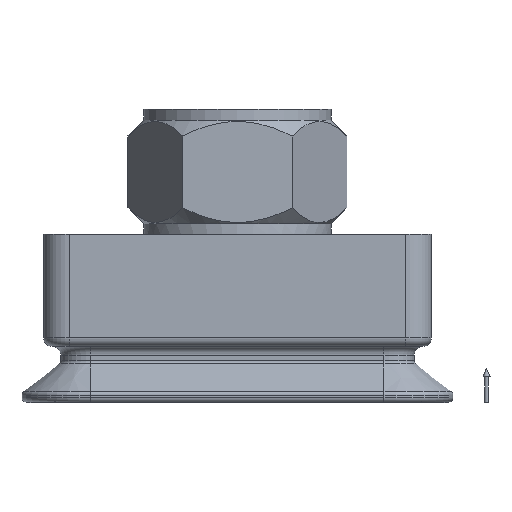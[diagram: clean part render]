
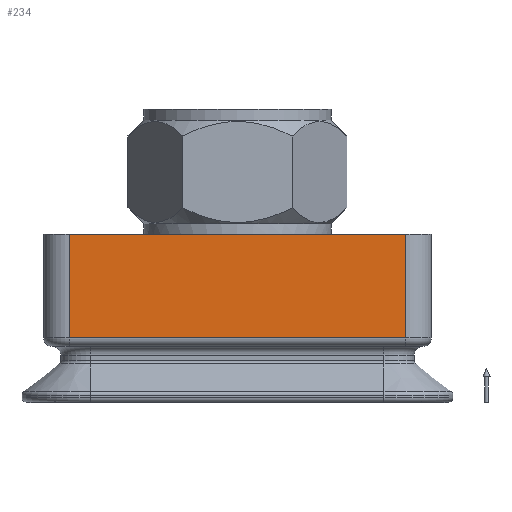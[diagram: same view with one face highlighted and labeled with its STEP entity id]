
A CAD part, front view. The second image highlights one B-rep face of the part: STEP entity #234.
In plain terms, the highlighted planar face has unit normal (0, -1, 0).
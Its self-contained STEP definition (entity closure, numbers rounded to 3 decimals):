
#234=ADVANCED_FACE('',(#525),#526,.T.);
#525=FACE_OUTER_BOUND('',#871,.T.);
#526=PLANE('',#872);
#871=EDGE_LOOP('',(#1473,#1474,#1475,#1476,#1477,#1478));
#872=AXIS2_PLACEMENT_3D('',#1479,#1480,#1481);
#1473=ORIENTED_EDGE('',*,*,#2130,.T.);
#1474=ORIENTED_EDGE('',*,*,#2080,.T.);
#1475=ORIENTED_EDGE('',*,*,#2128,.T.);
#1476=ORIENTED_EDGE('',*,*,#2154,.F.);
#1477=ORIENTED_EDGE('',*,*,#2174,.T.);
#1478=ORIENTED_EDGE('',*,*,#2171,.T.);
#1479=CARTESIAN_POINT('',(0.0,-7.5,7.5));
#1480=DIRECTION('',(0.0,-1.0,0.0));
#1481=DIRECTION('',(0.0,0.0,-1.0));
#2080=EDGE_CURVE('',#2450,#2448,#2506,.T.);
#2128=EDGE_CURVE('',#2448,#2562,#2564,.T.);
#2130=EDGE_CURVE('',#2566,#2450,#2567,.T.);
#2154=EDGE_CURVE('',#2604,#2562,#2606,.T.);
#2171=EDGE_CURVE('',#2628,#2566,#2629,.T.);
#2174=EDGE_CURVE('',#2604,#2628,#2632,.T.);
#2448=VERTEX_POINT('',#2945);
#2450=VERTEX_POINT('',#2947);
#2506=LINE('',#3069,#3070);
#2562=VERTEX_POINT('',#3189);
#2564=LINE('',#3191,#3192);
#2566=VERTEX_POINT('',#3194);
#2567=LINE('',#3195,#3196);
#2604=VERTEX_POINT('',#3244);
#2606=LINE('',#3246,#3247);
#2628=VERTEX_POINT('',#3277);
#2629=LINE('',#3278,#3279);
#2632=LINE('',#3282,#3283);
#2945=CARTESIAN_POINT('',(-7.875,-7.5,19.5));
#2947=CARTESIAN_POINT('',(7.875,-7.5,19.5));
#3069=CARTESIAN_POINT('',(-19.5,-7.5,19.5));
#3070=VECTOR('',#3710,1.0);
#3189=CARTESIAN_POINT('',(-19.5,-7.5,19.5));
#3191=CARTESIAN_POINT('',(-19.5,-7.5,19.5));
#3192=VECTOR('',#3759,1.0);
#3194=CARTESIAN_POINT('',(19.5,-7.5,19.5));
#3195=CARTESIAN_POINT('',(-19.5,-7.5,19.5));
#3196=VECTOR('',#3760,1.0);
#3244=CARTESIAN_POINT('',(-19.5,-7.5,7.5));
#3246=CARTESIAN_POINT('',(-19.5,-7.5,7.5));
#3247=VECTOR('',#3799,1.0);
#3277=CARTESIAN_POINT('',(19.5,-7.5,7.5));
#3278=CARTESIAN_POINT('',(19.5,-7.5,7.5));
#3279=VECTOR('',#3814,1.0);
#3282=CARTESIAN_POINT('',(-19.5,-7.5,7.5));
#3283=VECTOR('',#3818,1.0);
#3710=DIRECTION('',(-1.0,-0.0,-0.0));
#3759=DIRECTION('',(-1.0,-0.0,-0.0));
#3760=DIRECTION('',(-1.0,-0.0,-0.0));
#3799=DIRECTION('',(0.0,0.0,1.0));
#3814=DIRECTION('',(0.0,0.0,1.0));
#3818=DIRECTION('',(1.0,0.,0.));
